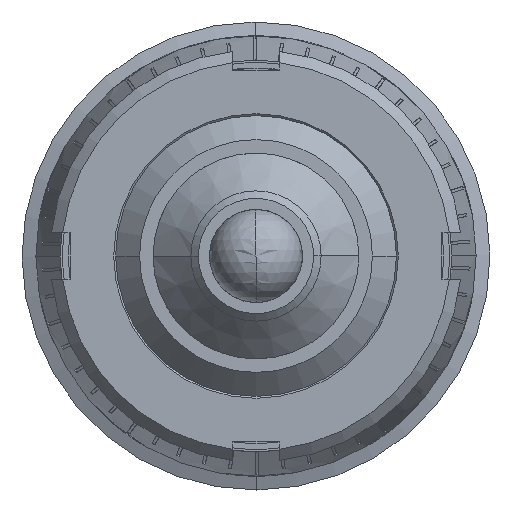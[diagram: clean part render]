
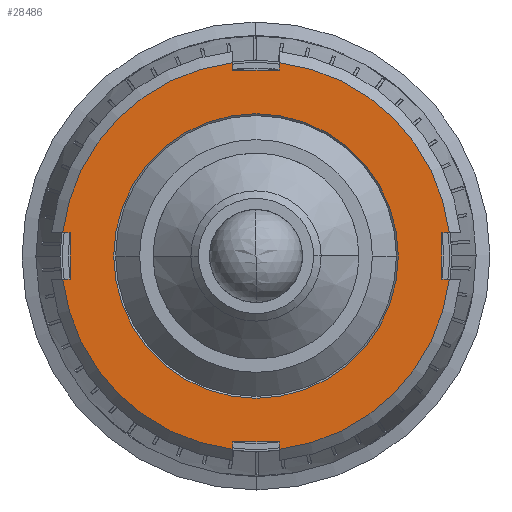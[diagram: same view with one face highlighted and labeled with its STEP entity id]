
A CAD part, left-side view. The second image highlights one B-rep face of the part: STEP entity #28486.
In plain terms, the highlighted planar face has unit normal (-1, 0, 0).
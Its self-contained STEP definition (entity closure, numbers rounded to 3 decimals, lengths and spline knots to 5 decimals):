
#288=CARTESIAN_POINT('',(0.032,0.,0.));
#289=DIRECTION('',(1.,0.,0.));
#290=DIRECTION('',(0.,0.,-1.));
#291=AXIS2_PLACEMENT_3D('',#288,#289,#290);
#293=CARTESIAN_POINT('',(0.032,0.,0.));
#294=DIRECTION('',(1.,0.,0.));
#295=DIRECTION('',(0.,0.,1.));
#296=AXIS2_PLACEMENT_3D('',#293,#294,#295);
#298=CARTESIAN_POINT('',(0.032,0.,0.));
#299=DIRECTION('',(-1.,0.,0.));
#300=DIRECTION('',(0.,0.119,0.993));
#301=AXIS2_PLACEMENT_3D('',#298,#299,#300);
#303=CARTESIAN_POINT('',(0.032,0.,0.));
#304=DIRECTION('',(-1.,0.,0.));
#305=DIRECTION('',(0.,-0.993,0.119));
#306=AXIS2_PLACEMENT_3D('',#303,#304,#305);
#308=CARTESIAN_POINT('',(0.032,0.,0.));
#309=DIRECTION('',(-1.,0.,0.));
#310=DIRECTION('',(0.,-0.119,-0.993));
#311=AXIS2_PLACEMENT_3D('',#308,#309,#310);
#313=CARTESIAN_POINT('',(0.032,0.,0.));
#314=DIRECTION('',(-1.,0.,0.));
#315=DIRECTION('',(0.,0.993,-0.119));
#316=AXIS2_PLACEMENT_3D('',#313,#314,#315);
#318=DIRECTION('',(0.,1.,0.));
#319=VECTOR('',#318,0.0099);
#320=CARTESIAN_POINT('',(0.032,0.24825,0.031));
#321=LINE('',#320,#319);
#361=DIRECTION('',(0.,0.,-1.));
#362=VECTOR('',#361,0.0099);
#363=CARTESIAN_POINT('',(0.032,0.031,0.25815));
#364=LINE('',#363,#362);
#22965=DIRECTION('',(0.,-1.,0.));
#22966=VECTOR('',#22965,0.0099);
#22967=CARTESIAN_POINT('',(0.032,0.25815,-0.031));
#22968=LINE('',#22967,#22966);
#22977=DIRECTION('',(0.,0.,-1.));
#22978=VECTOR('',#22977,0.0099);
#22979=CARTESIAN_POINT('',(0.032,0.031,-0.24825));
#22980=LINE('',#22979,#22978);
#23012=DIRECTION('',(0.,1.,0.));
#23013=VECTOR('',#23012,0.062);
#23014=CARTESIAN_POINT('',(0.032,-0.031,-0.24825));
#23015=LINE('',#23014,#23013);
#23024=DIRECTION('',(0.,0.,1.));
#23025=VECTOR('',#23024,0.0099);
#23026=CARTESIAN_POINT('',(0.032,-0.031,-0.25815));
#23027=LINE('',#23026,#23025);
#23055=DIRECTION('',(0.,-1.,0.));
#23056=VECTOR('',#23055,0.0099);
#23057=CARTESIAN_POINT('',(0.032,-0.24825,-0.031));
#23058=LINE('',#23057,#23056);
#23071=DIRECTION('',(0.,0.,-1.));
#23072=VECTOR('',#23071,0.062);
#23073=CARTESIAN_POINT('',(0.032,-0.24825,0.031));
#23074=LINE('',#23073,#23072);
#23083=DIRECTION('',(0.,1.,0.));
#23084=VECTOR('',#23083,0.0099);
#23085=CARTESIAN_POINT('',(0.032,-0.25815,0.031));
#23086=LINE('',#23085,#23084);
#23114=DIRECTION('',(0.,0.,1.));
#23115=VECTOR('',#23114,0.0099);
#23116=CARTESIAN_POINT('',(0.032,-0.031,0.24825));
#23117=LINE('',#23116,#23115);
#23130=DIRECTION('',(0.,-1.,0.));
#23131=VECTOR('',#23130,0.062);
#23132=CARTESIAN_POINT('',(0.032,0.031,0.24825));
#23133=LINE('',#23132,#23131);
#23199=DIRECTION('',(0.,0.,1.));
#23200=VECTOR('',#23199,0.062);
#23201=CARTESIAN_POINT('',(0.032,0.24825,-0.031));
#23202=LINE('',#23201,#23200);
#23223=CARTESIAN_POINT('',(0.032,0.,0.19));
#23224=VERTEX_POINT('',#23223);
#23235=CARTESIAN_POINT('',(0.032,0.,-0.19));
#23236=VERTEX_POINT('',#23235);
#23267=CARTESIAN_POINT('',(0.032,0.24825,0.031));
#23268=CARTESIAN_POINT('',(0.032,0.25815,0.031));
#23269=VERTEX_POINT('',#23267);
#23270=VERTEX_POINT('',#23268);
#23275=CARTESIAN_POINT('',(0.032,0.24825,-0.031));
#23276=VERTEX_POINT('',#23275);
#23277=CARTESIAN_POINT('',(0.032,0.031,0.25815));
#23278=VERTEX_POINT('',#23277);
#23289=CARTESIAN_POINT('',(0.032,0.25815,-0.031));
#23290=VERTEX_POINT('',#23289);
#23291=CARTESIAN_POINT('',(0.032,0.031,0.24825));
#23292=VERTEX_POINT('',#23291);
#23312=CARTESIAN_POINT('',(0.032,0.031,-0.25815));
#23313=VERTEX_POINT('',#23312);
#23314=CARTESIAN_POINT('',(0.032,-0.031,0.24825));
#23315=VERTEX_POINT('',#23314);
#23344=CARTESIAN_POINT('',(0.032,0.031,-0.24825));
#23345=VERTEX_POINT('',#23344);
#23346=CARTESIAN_POINT('',(0.032,-0.031,0.25815));
#23347=VERTEX_POINT('',#23346);
#23374=CARTESIAN_POINT('',(0.032,-0.031,-0.24825));
#23375=VERTEX_POINT('',#23374);
#23377=CARTESIAN_POINT('',(0.032,-0.25815,0.031));
#23378=VERTEX_POINT('',#23377);
#23408=CARTESIAN_POINT('',(0.032,-0.031,-0.25815));
#23409=VERTEX_POINT('',#23408);
#23410=CARTESIAN_POINT('',(0.032,-0.24825,0.031));
#23411=VERTEX_POINT('',#23410);
#23446=CARTESIAN_POINT('',(0.032,-0.25815,-0.031));
#23447=VERTEX_POINT('',#23446);
#23448=CARTESIAN_POINT('',(0.032,-0.24825,-0.031));
#23449=VERTEX_POINT('',#23448);
#28443=CARTESIAN_POINT('',(0.032,0.,0.));
#28444=DIRECTION('',(1.,0.,0.));
#28445=DIRECTION('',(0.,1.,0.));
#28446=AXIS2_PLACEMENT_3D('',#28443,#28444,#28445);
#28447=PLANE('',#28446);
#28449=ORIENTED_EDGE('',*,*,#28448,.T.);
#28451=ORIENTED_EDGE('',*,*,#28450,.F.);
#28453=ORIENTED_EDGE('',*,*,#28452,.T.);
#28455=ORIENTED_EDGE('',*,*,#28454,.T.);
#28457=ORIENTED_EDGE('',*,*,#28456,.T.);
#28459=ORIENTED_EDGE('',*,*,#28458,.F.);
#28461=ORIENTED_EDGE('',*,*,#28460,.T.);
#28463=ORIENTED_EDGE('',*,*,#28462,.T.);
#28465=ORIENTED_EDGE('',*,*,#28464,.T.);
#28467=ORIENTED_EDGE('',*,*,#28466,.F.);
#28469=ORIENTED_EDGE('',*,*,#28468,.T.);
#28471=ORIENTED_EDGE('',*,*,#28470,.T.);
#28473=ORIENTED_EDGE('',*,*,#28472,.T.);
#28475=ORIENTED_EDGE('',*,*,#28474,.F.);
#28477=ORIENTED_EDGE('',*,*,#28476,.T.);
#28479=ORIENTED_EDGE('',*,*,#28478,.T.);
#28480=EDGE_LOOP('',(#28449,#28451,#28453,#28455,#28457,#28459,#28461,#28463,
#28465,#28467,#28469,#28471,#28473,#28475,#28477,#28479));
#28481=FACE_OUTER_BOUND('',#28480,.F.);
#28482=ORIENTED_EDGE('',*,*,#28422,.F.);
#28483=ORIENTED_EDGE('',*,*,#28435,.F.);
#28484=EDGE_LOOP('',(#28482,#28483));
#28485=FACE_BOUND('',#28484,.F.);
#292=CIRCLE('',#291,0.19);
#297=CIRCLE('',#296,0.19);
#302=CIRCLE('',#301,0.26);
#307=CIRCLE('',#306,0.26);
#312=CIRCLE('',#311,0.26);
#317=CIRCLE('',#316,0.26);
#28422=EDGE_CURVE('',#23236,#23224,#292,.T.);
#28435=EDGE_CURVE('',#23224,#23236,#297,.T.);
#28448=EDGE_CURVE('',#23269,#23270,#321,.T.);
#28450=EDGE_CURVE('',#23278,#23270,#302,.T.);
#28452=EDGE_CURVE('',#23278,#23292,#364,.T.);
#28454=EDGE_CURVE('',#23292,#23315,#23133,.T.);
#28456=EDGE_CURVE('',#23315,#23347,#23117,.T.);
#28458=EDGE_CURVE('',#23378,#23347,#307,.T.);
#28460=EDGE_CURVE('',#23378,#23411,#23086,.T.);
#28462=EDGE_CURVE('',#23411,#23449,#23074,.T.);
#28464=EDGE_CURVE('',#23449,#23447,#23058,.T.);
#28466=EDGE_CURVE('',#23409,#23447,#312,.T.);
#28468=EDGE_CURVE('',#23409,#23375,#23027,.T.);
#28470=EDGE_CURVE('',#23375,#23345,#23015,.T.);
#28472=EDGE_CURVE('',#23345,#23313,#22980,.T.);
#28474=EDGE_CURVE('',#23290,#23313,#317,.T.);
#28476=EDGE_CURVE('',#23290,#23276,#22968,.T.);
#28478=EDGE_CURVE('',#23276,#23269,#23202,.T.);
#28486=ADVANCED_FACE('',(#28481,#28485),#28447,.F.);
